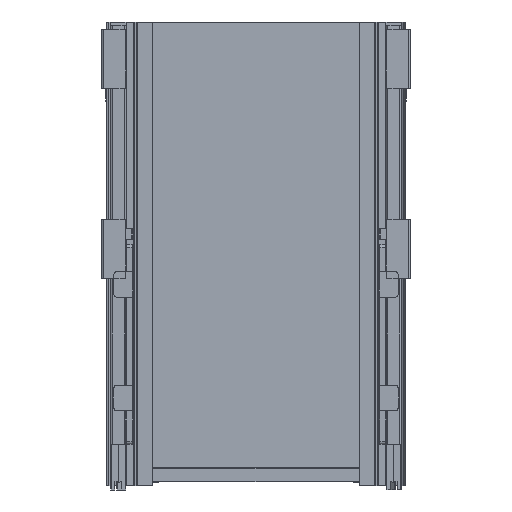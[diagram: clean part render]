
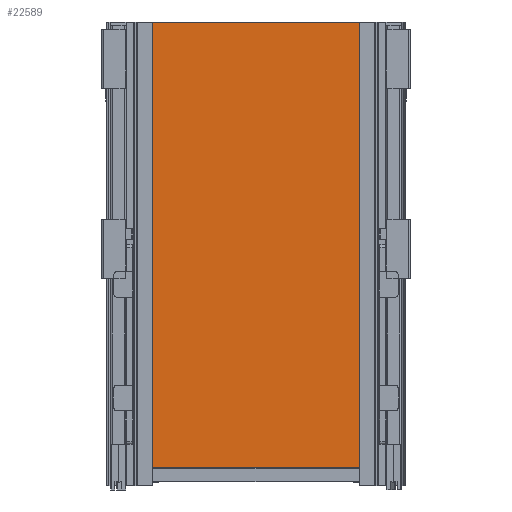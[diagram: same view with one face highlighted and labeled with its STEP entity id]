
A CAD part, front view. The second image highlights one B-rep face of the part: STEP entity #22589.
In plain terms, the highlighted planar face has unit normal (0, -1, 0).
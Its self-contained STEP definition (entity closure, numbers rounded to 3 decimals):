
#1445=PLANE('',#24666);
#2601=FACE_OUTER_BOUND('',#3953,.T.);
#3953=EDGE_LOOP('',(#20227,#20228,#20229,#20230));
#6967=LINE('',#37180,#9123);
#6971=LINE('',#37188,#9127);
#6974=LINE('',#37194,#9130);
#6977=LINE('',#37199,#9133);
#9123=VECTOR('',#30916,526.);
#9127=VECTOR('',#30922,278.);
#9130=VECTOR('',#30927,526.);
#9133=VECTOR('',#30932,278.);
#11121=VERTEX_POINT('',#37178);
#11122=VERTEX_POINT('',#37179);
#11125=VERTEX_POINT('',#37187);
#11127=VERTEX_POINT('',#37193);
#14151=EDGE_CURVE('',#11121,#11122,#6967,.T.);
#14155=EDGE_CURVE('',#11122,#11125,#6971,.T.);
#14158=EDGE_CURVE('',#11125,#11127,#6974,.T.);
#14161=EDGE_CURVE('',#11127,#11121,#6977,.T.);
#20227=ORIENTED_EDGE('',*,*,#14161,.T.);
#20228=ORIENTED_EDGE('',*,*,#14151,.T.);
#20229=ORIENTED_EDGE('',*,*,#14155,.T.);
#20230=ORIENTED_EDGE('',*,*,#14158,.T.);
#22589=ADVANCED_FACE('',(#2601),#1445,.T.);
#24666=AXIS2_PLACEMENT_3D('',#37201,#30934,#30935);
#30916=DIRECTION('',(0.,0.,-1.));
#30922=DIRECTION('',(1.,0.,0.));
#30927=DIRECTION('',(0.,0.,1.));
#30932=DIRECTION('',(-1.,0.,0.));
#30934=DIRECTION('center_axis',(0.,-1.,0.));
#30935=DIRECTION('ref_axis',(0.,0.,-1.));
#37178=CARTESIAN_POINT('',(-139.,0.,263.));
#37179=CARTESIAN_POINT('',(-139.,0.,-263.));
#37180=CARTESIAN_POINT('',(-139.,0.,263.));
#37187=CARTESIAN_POINT('',(139.,0.,-263.));
#37188=CARTESIAN_POINT('',(-139.,0.,-263.));
#37193=CARTESIAN_POINT('',(139.,0.,263.));
#37194=CARTESIAN_POINT('',(139.,0.,-263.));
#37199=CARTESIAN_POINT('',(139.,0.,263.));
#37201=CARTESIAN_POINT('Origin',(0.,0.,0.));
